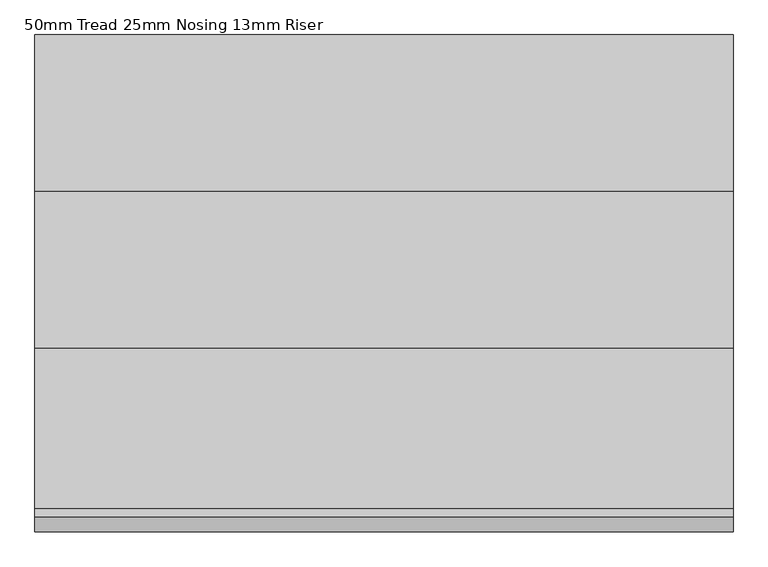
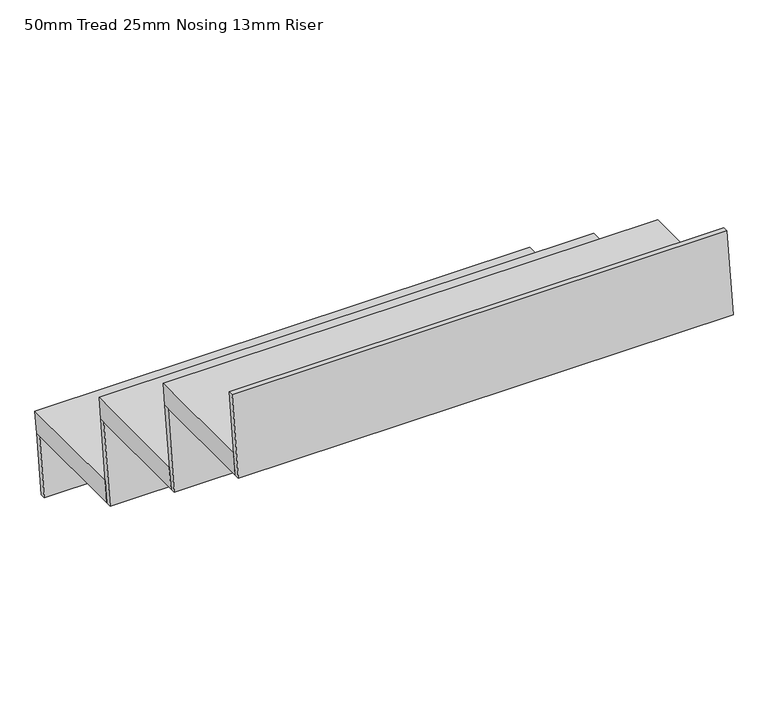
"""IFC4 building model written with IfcOpenShell, lengths in millimetres: stair flight geometry, 50mm Tread 25mm Nosing 13mm Riser."""

from ifc_helpers import new_model, si_unit, frame, origin, place, context, project, spatial, polyline, outline, extrude, source, transform, mapped, element, save


def stair_flight_50mm_tread_25mm_nosing_13mm_riser_3adddc06(model_context):
    return source(origin(), model_context, "Body", "SweptSolid", [
        extrude(outline(polyline([(3348.9640828, 2933.7), (3632.2, 2933.7), (3625.6383202, 2883.7), (3342.4024031, 2883.7), (3348.9640828, 2933.7)])), frame((-1549.4, 0.0, 0.0), z_axis=(1.0, 0.0, 0.0), x_axis=(0.0, 1.0, 0.0)), (0.0, 0.0, 1.0), 1149.35),
        extrude(outline(polyline([(3625.6383202, 2883.7), (3607.2, 2743.2), (3594.5928204, 2743.2), (3613.0311406, 2883.7), (3625.6383202, 2883.7)])), frame((-1549.4, 0.0, 0.0), z_axis=(1.0, 0.0, 0.0), x_axis=(0.0, 1.0, 0.0)), (0.0, 0.0, 1.0), 1149.35),
        extrude(outline(polyline([(3367.4024031, 3074.2), (3342.4024031, 2883.7), (3329.7952234, 2883.7), (3354.7952234, 3074.2), (3367.4024031, 3074.2)])), frame((-1549.4, 0.0, 0.0), z_axis=(1.0, 0.0, 0.0), x_axis=(0.0, 1.0, 0.0)), (0.0, 0.0, 1.0), 1149.35),
        extrude(outline(polyline([(3090.7281657, 3124.2), (3373.9640828, 3124.2), (3367.4024031, 3074.2), (3084.1664859, 3074.2), (3090.7281657, 3124.2)])), frame((-1549.4, 0.0, 0.0), z_axis=(1.0, 0.0, 0.0), x_axis=(0.0, 1.0, 0.0)), (0.0, 0.0, 1.0), 1149.35),
        extrude(outline(polyline([(3109.1664859, 3264.7), (3084.1664859, 3074.2), (3071.5593063, 3074.2), (3096.5593063, 3264.7), (3109.1664859, 3264.7)])), frame((-1549.4, 0.0, 0.0), z_axis=(1.0, 0.0, 0.0), x_axis=(0.0, 1.0, 0.0)), (0.0, 0.0, 1.0), 1149.35),
        extrude(outline(polyline([(2850.9305687, 3455.2), (2825.9305687, 3264.7), (2813.3233891, 3264.7), (2838.3233891, 3455.2), (2850.9305687, 3455.2)])), frame((-1549.4, 0.0, 0.0), z_axis=(1.0, 0.0, 0.0), x_axis=(0.0, 1.0, 0.0)), (0.0, 0.0, 1.0), 1149.35),
        extrude(outline(polyline([(2832.4922485, 3314.7), (3115.7281657, 3314.7), (3109.1664859, 3264.7), (2825.9305687, 3264.7), (2832.4922485, 3314.7)])), frame((-1549.4, 0.0, 0.0), z_axis=(1.0, 0.0, 0.0), x_axis=(0.0, 1.0, 0.0)), (0.0, 0.0, 1.0), 1149.35),
    ])


if __name__ == "__main__":
    model = new_model("IFC4")
    model_context = context("Model", 3, world=origin())
    ifc_project = project(units=[si_unit("LENGTHUNIT", "METRE", prefix="MILLI")], contexts=[model_context])
    site = spatial("IfcSite", under=ifc_project)
    building = spatial("IfcBuilding", under=site)
    placement = place(None, origin())
    stair_flight_50mm_tread_25mm_nosing_13mm_riser_shape = stair_flight_50mm_tread_25mm_nosing_13mm_riser_3adddc06(model_context)
    element("IfcStairFlight", 1, ObjectType="50mm Tread 25mm Nosing 13mm Riser", at=placement, inside=building, context=model_context, shape_type="MappedRepresentation", body=[
        mapped(stair_flight_50mm_tread_25mm_nosing_13mm_riser_shape, transform((0.0, 0.0, 0.0), x_axis=(1.0, 0.0, 0.0), y_axis=(0.0, 1.0, 0.0), z_axis=(0.0, 0.0, 1.0))),
    ])
    save(model, "model.ifc")
